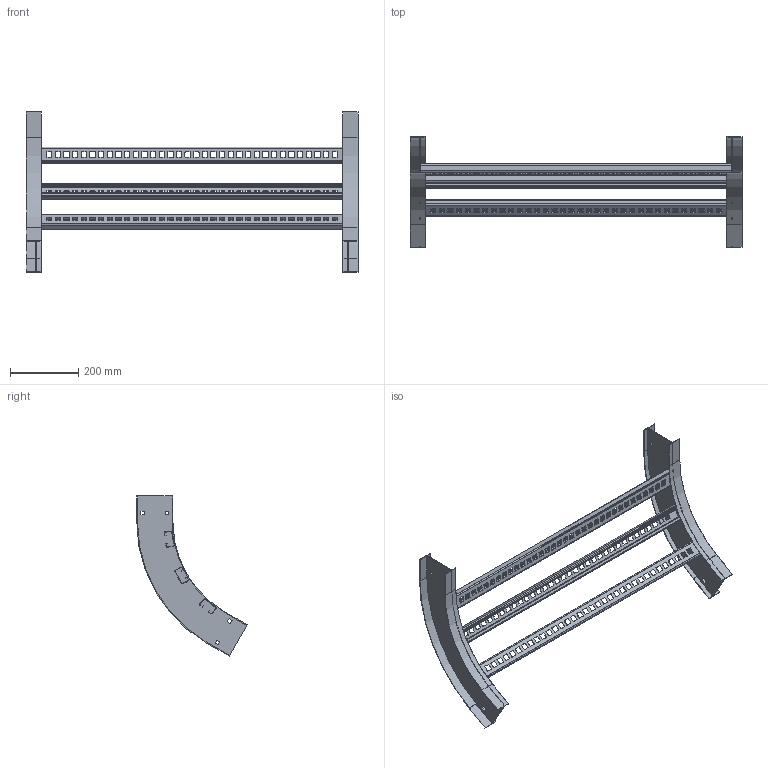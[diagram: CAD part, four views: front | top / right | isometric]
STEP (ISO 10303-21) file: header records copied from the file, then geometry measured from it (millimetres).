
FILE_DESCRIPTION((''),'2;1');
FILE_NAME('AHF436VVO6012_ASM','2010-02-01T',('erouzier'),(''),'PRO/ENGINEER BY PARAMETRIC TECHNOLOGY CORPORATION, 2008510','PRO/ENGINEER BY PARAMETRIC TECHNOLOGY CORPORATION, 2008510','');
FILE_SCHEMA(('CONFIG_CONTROL_DESIGN'));
Length unit declared in the file: inch
Products named in the file (3): CDS001658_4_60_12; CDS002159L36-P; AHF436VVO6012_ASM
Assembly tree (5 placements, depth 2):
  AHF436VVO6012_ASM
    CDS001658_4_60_12  x2
    CDS002159L36-P  x3
Bounding box: 974.6 x 324.44 x 470.1 mm (x, y, z)
Volume: 745647.1 mm3; surface area: 1011670.7 mm2
Topology: 5 solids, 5 shells, 990 faces, 2940 edges, 1960 vertices
Faces by surface type: plane 537, cylinder 453
Entity records: 11840 total; most frequent: CARTESIAN_POINT 2052, ORIENTED_EDGE 2040, DIRECTION 2030, EDGE_CURVE 1020, VECTOR 714, LINE 714, VERTEX_POINT 680, AXIS2_PLACEMENT_3D 658
